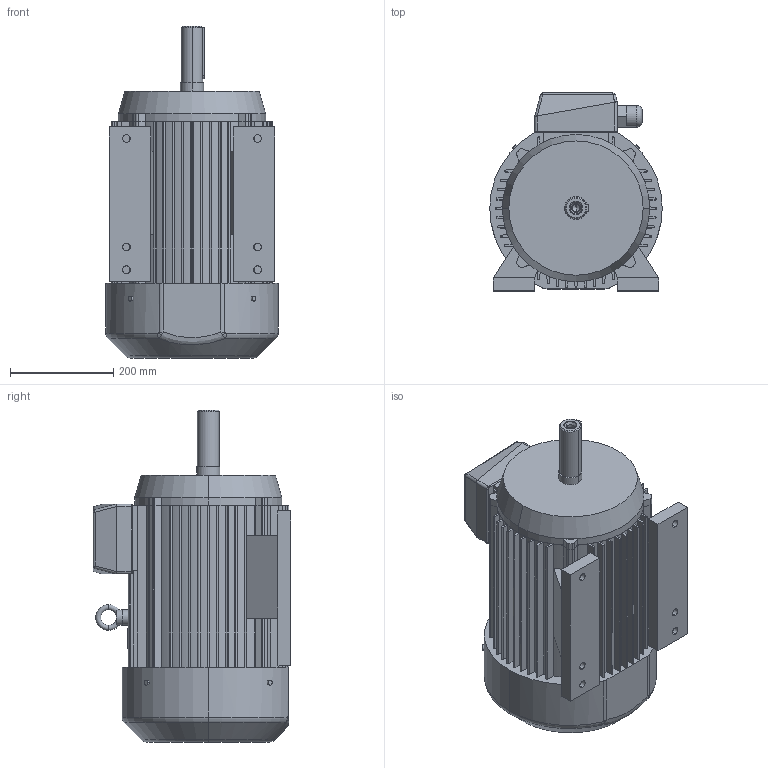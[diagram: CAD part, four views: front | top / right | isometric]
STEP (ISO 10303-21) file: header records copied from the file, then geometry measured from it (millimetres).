
FILE_DESCRIPTION (( 'STEP AP203' ), '1' );
FILE_NAME ('3SIE160L.STEP', '2014-10-01T06:56:34', ( '' ), ( '' ), 'SwSTEP 2.0', 'SolidWorks 2003064', '' );
FILE_SCHEMA (( 'CONFIG_CONTROL_DESIGN' ));
Length unit declared in the file: millimetre
Products named in the file (1): 3SIE160L
Bounding box: 334 x 383 x 643 mm (x, y, z)
Volume: 40496548.4 mm3; surface area: 1482411.7 mm2
Topology: 17 solids, 17 shells, 410 faces, 1061 edges, 677 vertices
Faces by surface type: plane 189, cylinder 181, torus 17, cone 14, bspline 5, sphere 4
Entity records: 15599 total; most frequent: CARTESIAN_POINT 5309, DIRECTION 2217, ORIENTED_EDGE 2106, EDGE_CURVE 1053, AXIS2_PLACEMENT_3D 799, VERTEX_POINT 677, LINE 619, VECTOR 619
